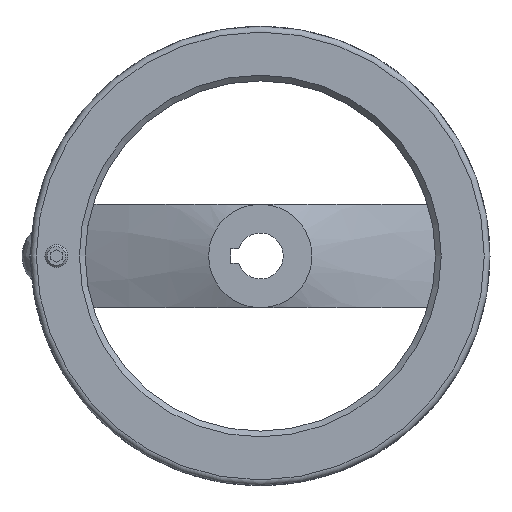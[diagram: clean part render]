
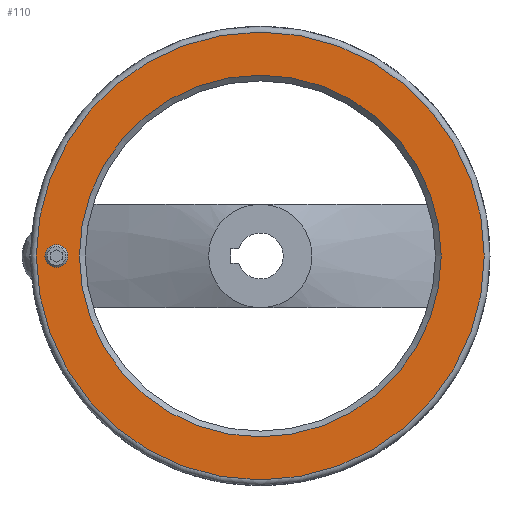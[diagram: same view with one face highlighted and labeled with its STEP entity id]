
A CAD part, left-side view. The second image highlights one B-rep face of the part: STEP entity #110.
In plain terms, the highlighted planar face has unit normal (-1, 0, 0).
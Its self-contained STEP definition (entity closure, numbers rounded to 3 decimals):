
#110 = ADVANCED_FACE( '', ( #207, #208, #209 ), #210, .T. );
#207 = FACE_OUTER_BOUND( '', #348, .T. );
#208 = FACE_BOUND( '', #349, .T. );
#209 = FACE_BOUND( '', #350, .T. );
#210 = PLANE( '', #351 );
#348 = EDGE_LOOP( '', ( #596 ) );
#349 = EDGE_LOOP( '', ( #597 ) );
#350 = EDGE_LOOP( '', ( #598 ) );
#351 = AXIS2_PLACEMENT_3D( '', #599, #600, #601 );
#596 = ORIENTED_EDGE( '', *, *, #709, .T. );
#597 = ORIENTED_EDGE( '', *, *, #675, .T. );
#598 = ORIENTED_EDGE( '', *, *, #710, .F. );
#599 = CARTESIAN_POINT( '', ( 21., -63., 0. ) );
#600 = DIRECTION( '', ( -1., 0., 0. ) );
#601 = DIRECTION( '', ( 0., 0., 1. ) );
#675 = EDGE_CURVE( '', #796, #796, #797, .T. );
#709 = EDGE_CURVE( '', #848, #848, #849, .T. );
#710 = EDGE_CURVE( '', #850, #850, #851, .T. );
#796 = VERTEX_POINT( '', #1083 );
#797 = CIRCLE( '', #1084, 4. );
#848 = VERTEX_POINT( '', #1149 );
#849 = CIRCLE( '', #1150, 78. );
#850 = VERTEX_POINT( '', #1151 );
#851 = CIRCLE( '', #1152, 63. );
#1083 = CARTESIAN_POINT( '', ( 21., 71., -4. ) );
#1084 = AXIS2_PLACEMENT_3D( '', #1206, #1207, #1208 );
#1149 = CARTESIAN_POINT( '', ( 21., 0., 78. ) );
#1150 = AXIS2_PLACEMENT_3D( '', #1277, #1278, #1279 );
#1151 = CARTESIAN_POINT( '', ( 21., 0., 63. ) );
#1152 = AXIS2_PLACEMENT_3D( '', #1280, #1281, #1282 );
#1206 = CARTESIAN_POINT( '', ( 21., 71., 0. ) );
#1207 = DIRECTION( '', ( 1., 0., 0. ) );
#1208 = DIRECTION( '', ( 0., 0., -1. ) );
#1277 = CARTESIAN_POINT( '', ( 21., 0., 0. ) );
#1278 = DIRECTION( '', ( -1., 0., 0. ) );
#1279 = DIRECTION( '', ( 0., 0., 1. ) );
#1280 = CARTESIAN_POINT( '', ( 21., 0., 0. ) );
#1281 = DIRECTION( '', ( -1., 0., 0. ) );
#1282 = DIRECTION( '', ( 0., 0., 1. ) );
